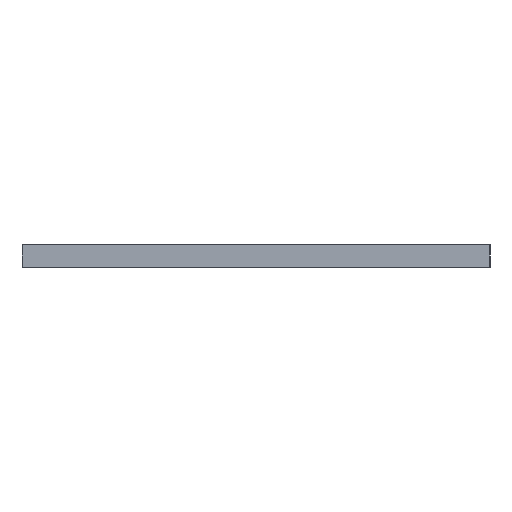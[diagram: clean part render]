
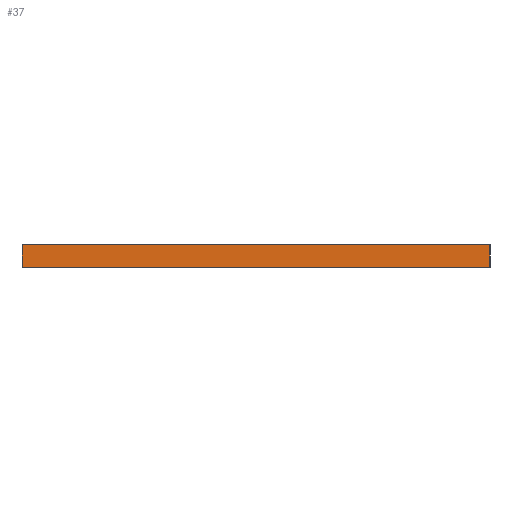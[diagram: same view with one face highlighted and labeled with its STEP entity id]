
A CAD part, left-side view. The second image highlights one B-rep face of the part: STEP entity #37.
In plain terms, the highlighted planar face has unit normal (-1, 0, 0).
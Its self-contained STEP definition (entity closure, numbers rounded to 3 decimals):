
#37=ADVANCED_FACE('',(#49),#353,.T.);
#49=FACE_OUTER_BOUND('',#61,.T.);
#61=EDGE_LOOP('',(#79,#80,#81,#82));
#79=ORIENTED_EDGE('',*,*,#244,.F.);
#80=ORIENTED_EDGE('',*,*,#246,.T.);
#81=ORIENTED_EDGE('',*,*,#247,.T.);
#82=ORIENTED_EDGE('',*,*,#248,.T.);
#125=PCURVE('',#352,#173);
#127=PCURVE('',#353,#175);
#128=PCURVE('',#353,#176);
#129=PCURVE('',#353,#177);
#130=PCURVE('',#353,#178);
#131=PCURVE('',#354,#179);
#137=PCURVE('',#355,#185);
#140=PCURVE('',#356,#188);
#173=DEFINITIONAL_REPRESENTATION('',(#275),#586);
#175=DEFINITIONAL_REPRESENTATION('',(#278),#586);
#176=DEFINITIONAL_REPRESENTATION('',(#280),#586);
#177=DEFINITIONAL_REPRESENTATION('',(#282),#586);
#178=DEFINITIONAL_REPRESENTATION('',(#284),#586);
#179=DEFINITIONAL_REPRESENTATION('',(#285),#586);
#185=DEFINITIONAL_REPRESENTATION('',(#293),#586);
#188=DEFINITIONAL_REPRESENTATION('',(#296),#586);
#220=SURFACE_CURVE('',#274,(#125,#127),.PCURVE_S1.);
#222=SURFACE_CURVE('',#279,(#128,#140),.PCURVE_S1.);
#223=SURFACE_CURVE('',#281,(#129,#131),.PCURVE_S1.);
#224=SURFACE_CURVE('',#283,(#130,#137),.PCURVE_S1.);
#244=EDGE_CURVE('',#340,#339,#220,.T.);
#246=EDGE_CURVE('',#340,#342,#222,.T.);
#247=EDGE_CURVE('',#342,#341,#223,.T.);
#248=EDGE_CURVE('',#341,#339,#224,.T.);
#274=B_SPLINE_CURVE_WITH_KNOTS('',1,(#449,#450),.UNSPECIFIED.,.F.,.F.,(2,
2),(-400.,0.),.UNSPECIFIED.);
#275=B_SPLINE_CURVE_WITH_KNOTS('',1,(#451,#452),.UNSPECIFIED.,.F.,.F.,(2,
2),(-400.,0.),.UNSPECIFIED.);
#278=B_SPLINE_CURVE_WITH_KNOTS('',1,(#457,#458),.UNSPECIFIED.,.F.,.F.,(2,
2),(-400.,0.),.UNSPECIFIED.);
#279=B_SPLINE_CURVE_WITH_KNOTS('',1,(#459,#460),.UNSPECIFIED.,.F.,.F.,(2,
2),(-100.,-50.),.UNSPECIFIED.);
#280=B_SPLINE_CURVE_WITH_KNOTS('',1,(#461,#462),.UNSPECIFIED.,.F.,.F.,(2,
2),(-100.,-50.),.UNSPECIFIED.);
#281=B_SPLINE_CURVE_WITH_KNOTS('',1,(#463,#464),.UNSPECIFIED.,.F.,.F.,(2,
2),(-400.,0.),.UNSPECIFIED.);
#282=B_SPLINE_CURVE_WITH_KNOTS('',1,(#465,#466),.UNSPECIFIED.,.F.,.F.,(2,
2),(-400.,0.),.UNSPECIFIED.);
#283=B_SPLINE_CURVE_WITH_KNOTS('',1,(#467,#468),.UNSPECIFIED.,.F.,.F.,(2,
2),(50.,100.),.UNSPECIFIED.);
#284=B_SPLINE_CURVE_WITH_KNOTS('',1,(#469,#470),.UNSPECIFIED.,.F.,.F.,(2,
2),(50.,100.),.UNSPECIFIED.);
#285=B_SPLINE_CURVE_WITH_KNOTS('',1,(#471,#472),.UNSPECIFIED.,.F.,.F.,(2,
2),(-400.,0.),.UNSPECIFIED.);
#293=B_SPLINE_CURVE_WITH_KNOTS('',1,(#487,#488),.UNSPECIFIED.,.F.,.F.,(2,
2),(50.,100.),.UNSPECIFIED.);
#296=B_SPLINE_CURVE_WITH_KNOTS('',1,(#493,#494),.UNSPECIFIED.,.F.,.F.,(2,
2),(-100.,-50.),.UNSPECIFIED.);
#339=VERTEX_POINT('',#423);
#340=VERTEX_POINT('',#424);
#341=VERTEX_POINT('',#425);
#342=VERTEX_POINT('',#426);
#352=PLANE('',#384);
#353=PLANE('',#385);
#354=PLANE('',#386);
#355=PLANE('',#387);
#356=PLANE('',#388);
#384=AXIS2_PLACEMENT_3D('',#414,#399,$);
#385=AXIS2_PLACEMENT_3D('',#415,#400,$);
#386=AXIS2_PLACEMENT_3D('',#416,#401,$);
#387=AXIS2_PLACEMENT_3D('',#417,#402,$);
#388=AXIS2_PLACEMENT_3D('',#418,#403,$);
#399=DIRECTION('',(0.,0.,1.));
#400=DIRECTION('',(-1.,0.,0.));
#401=DIRECTION('',(0.,0.,-1.));
#402=DIRECTION('',(0.,-1.,0.));
#403=DIRECTION('',(0.,1.,0.));
#414=CARTESIAN_POINT('',(-762.,-565.,180.));
#415=CARTESIAN_POINT('',(-782.,-565.,180.));
#416=CARTESIAN_POINT('',(-782.,-565.,140.));
#417=CARTESIAN_POINT('',(-782.,-565.,140.));
#418=CARTESIAN_POINT('',(-782.,265.,140.));
#423=CARTESIAN_POINT('',(-782.,-565.,180.));
#424=CARTESIAN_POINT('',(-782.,265.,180.));
#425=CARTESIAN_POINT('',(-782.,-565.,140.));
#426=CARTESIAN_POINT('',(-782.,265.,140.));
#449=CARTESIAN_POINT('',(-782.,265.,180.));
#450=CARTESIAN_POINT('',(-782.,-565.,180.));
#451=CARTESIAN_POINT('',(400.,-100.));
#452=CARTESIAN_POINT('',(0.,-100.));
#457=CARTESIAN_POINT('',(400.,-100.));
#458=CARTESIAN_POINT('',(0.,-100.));
#459=CARTESIAN_POINT('',(-782.,265.,180.));
#460=CARTESIAN_POINT('',(-782.,265.,140.));
#461=CARTESIAN_POINT('',(400.,-100.));
#462=CARTESIAN_POINT('',(400.,-50.));
#463=CARTESIAN_POINT('',(-782.,265.,140.));
#464=CARTESIAN_POINT('',(-782.,-565.,140.));
#465=CARTESIAN_POINT('',(400.,-50.));
#466=CARTESIAN_POINT('',(0.,-50.));
#467=CARTESIAN_POINT('',(-782.,-565.,140.));
#468=CARTESIAN_POINT('',(-782.,-565.,180.));
#469=CARTESIAN_POINT('',(0.,-50.));
#470=CARTESIAN_POINT('',(0.,-100.));
#471=CARTESIAN_POINT('',(400.,-50.));
#472=CARTESIAN_POINT('',(0.,-50.));
#487=CARTESIAN_POINT('',(-40.,0.));
#488=CARTESIAN_POINT('',(-40.,40.));
#493=CARTESIAN_POINT('',(40.,-40.));
#494=CARTESIAN_POINT('',(0.,-40.));
#586=(
GEOMETRIC_REPRESENTATION_CONTEXT(2)
PARAMETRIC_REPRESENTATION_CONTEXT()
REPRESENTATION_CONTEXT('pspace','')
);
